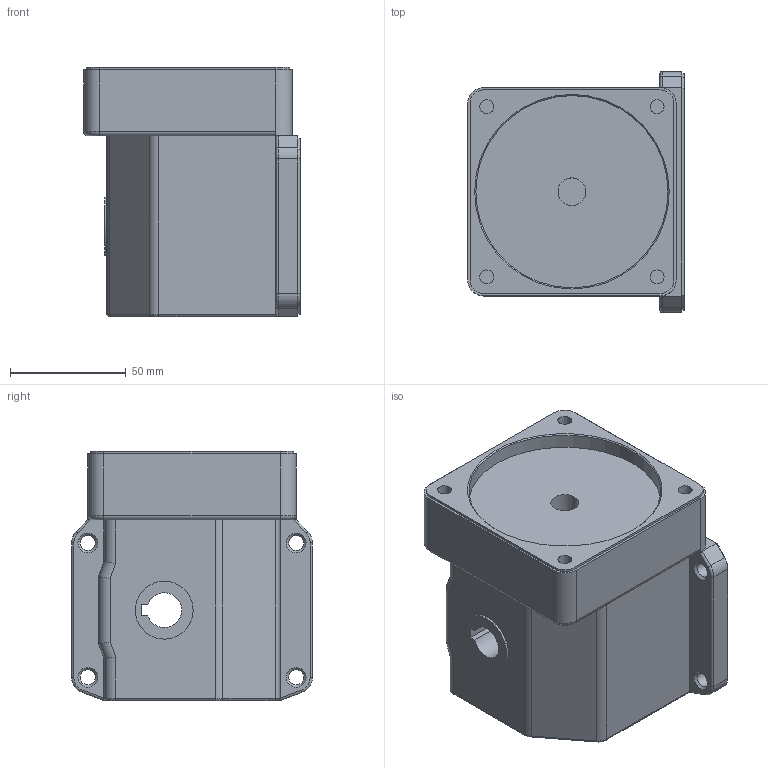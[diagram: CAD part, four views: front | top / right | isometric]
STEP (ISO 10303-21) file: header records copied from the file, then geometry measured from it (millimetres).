
FILE_DESCRIPTION((''),'2;1');
FILE_NAME('D:\작업\흐힠~\3D 모델링\SC9HB_A 미주향.stp','2012-02-20T10:58:16',('jy-jung'),(''),'Autodesk Inventor 2011','Autodesk Inventor 2011','');
FILE_SCHEMA(('AUTOMOTIVE_DESIGN { 1 0 10303 214 1 1 1 1 }'));
Length unit declared in the file: millimetre
Products named in the file (1): 부품5
Bounding box: 93.5 x 104 x 107.5 mm (x, y, z)
Volume: 672226.7 mm3; surface area: 62992.1 mm2
Topology: 1 solids, 1 shells, 136 faces, 328 edges, 207 vertices
Faces by surface type: cylinder 60, plane 58, cone 9, torus 9
Full cylindrical faces by diameter (mm): 6 x4, 6.5 x4, 12 x1, 25 x2, 38 x1, 72.2 x1, 83 x1
Entity records: 3927 total; most frequent: DIRECTION 715, CARTESIAN_POINT 679, ORIENTED_EDGE 610, EDGE_CURVE 305, AXIS2_PLACEMENT_3D 275, VERTEX_POINT 207, EDGE_LOOP 182, VECTOR 165
